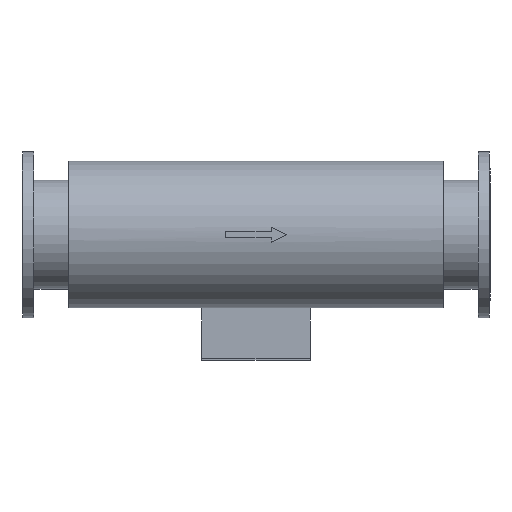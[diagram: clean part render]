
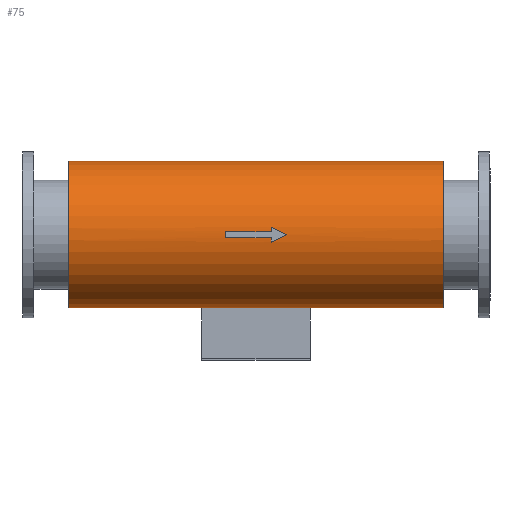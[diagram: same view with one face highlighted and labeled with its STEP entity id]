
A CAD part, front view. The second image highlights one B-rep face of the part: STEP entity #75.
In plain terms, the highlighted cylindrical face has radius 145.8 mm (diameter 291.6 mm), a partial arc.
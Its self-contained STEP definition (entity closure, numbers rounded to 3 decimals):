
#75=ADVANCED_FACE('',(#564,#565,#566),#563,.T.);
#563=CYLINDRICAL_SURFACE('',#1548,145.8);
#564=FACE_OUTER_BOUND('',#1549,.T.);
#565=FACE_BOUND('',#1550,.T.);
#566=FACE_BOUND('',#1551,.T.);
#1545=CARTESIAN_POINT('',(628.,0.,0.));
#1546=DIRECTION('',(1.,0.,0.));
#1547=DIRECTION('',(0.,0.009,1.));
#1548=AXIS2_PLACEMENT_3D('',#1545,#1546,#1547);
#1549=EDGE_LOOP('',(#2182,#2183,#2184,#2185,#2186,#2187));
#1550=EDGE_LOOP('',(#2188,#2189,#2190,#2191));
#1551=EDGE_LOOP('',(#2192,#2193,#2194,#2195,#2196,#2197,#2198));
#2182=ORIENTED_EDGE('',*,*,#2512,.T.);
#2183=ORIENTED_EDGE('',*,*,#2514,.T.);
#2184=ORIENTED_EDGE('',*,*,#2714,.F.);
#2185=ORIENTED_EDGE('',*,*,#2708,.F.);
#2186=ORIENTED_EDGE('',*,*,#2710,.F.);
#2187=ORIENTED_EDGE('',*,*,#2715,.T.);
#2188=ORIENTED_EDGE('',*,*,#2645,.T.);
#2189=ORIENTED_EDGE('',*,*,#2637,.T.);
#2190=ORIENTED_EDGE('',*,*,#2655,.T.);
#2191=ORIENTED_EDGE('',*,*,#2648,.T.);
#2192=ORIENTED_EDGE('',*,*,#2508,.T.);
#2193=ORIENTED_EDGE('',*,*,#2713,.T.);
#2194=ORIENTED_EDGE('',*,*,#2699,.T.);
#2195=ORIENTED_EDGE('',*,*,#2687,.T.);
#2196=ORIENTED_EDGE('',*,*,#2701,.T.);
#2197=ORIENTED_EDGE('',*,*,#2690,.T.);
#2198=ORIENTED_EDGE('',*,*,#2702,.T.);
#2508=EDGE_CURVE('',#2856,#2857,#2858,.T.);
#2512=EDGE_CURVE('',#2884,#2885,#2886,.T.);
#2514=EDGE_CURVE('',#2885,#2892,#2899,.T.);
#2637=EDGE_CURVE('',#3759,#3760,#3761,.T.);
#2645=EDGE_CURVE('',#3815,#3759,#3816,.T.);
#2648=EDGE_CURVE('',#3835,#3815,#3836,.T.);
#2655=EDGE_CURVE('',#3760,#3835,#3883,.T.);
#2687=EDGE_CURVE('',#4099,#4100,#4101,.T.);
#2690=EDGE_CURVE('',#4119,#4120,#4121,.T.);
#2699=EDGE_CURVE('',#4178,#4099,#4179,.T.);
#2701=EDGE_CURVE('',#4100,#4119,#4191,.T.);
#2702=EDGE_CURVE('',#4120,#2856,#4197,.T.);
#2708=EDGE_CURVE('',#4237,#4238,#4239,.T.);
#2710=EDGE_CURVE('',#4245,#4237,#4252,.T.);
#2713=EDGE_CURVE('',#2857,#4178,#4272,.T.);
#2714=EDGE_CURVE('',#4238,#2892,#4278,.T.);
#2715=EDGE_CURVE('',#4245,#2884,#4284,.T.);
#2856=VERTEX_POINT('',#4762);
#2857=VERTEX_POINT('',#4763);
#2858=LINE('',#4764,#4765);
#2884=VERTEX_POINT('',#4778);
#2885=VERTEX_POINT('',#4779);
#2886=CIRCLE('',#4783,145.8);
#2892=VERTEX_POINT('',#4784);
#2899=CIRCLE('',#4792,145.8);
#3759=VERTEX_POINT('',#5403);
#3760=VERTEX_POINT('',#5404);
#3761=CIRCLE('',#5408,145.8);
#3815=VERTEX_POINT('',#5436);
#3816=LINE('',#5437,#5438);
#3835=VERTEX_POINT('',#5447);
#3836=CIRCLE('',#5451,145.8);
#3883=LINE('',#5475,#5476);
#4099=VERTEX_POINT('',#5611);
#4100=VERTEX_POINT('',#5612);
#4101=(BOUNDED_CURVE() B_SPLINE_CURVE(2,(#5613,#5614,#5615),.UNSPECIFIED.,.F.,.F.) B_SPLINE_CURVE_WITH_KNOTS((3,3),(-1.571,-1.468),.UNSPECIFIED.) CURVE() GEOMETRIC_REPRESENTATION_ITEM() RATIONAL_B_SPLINE_CURVE((1.,0.999,1.)) REPRESENTATION_ITEM('') );
#4119=VERTEX_POINT('',#5622);
#4120=VERTEX_POINT('',#5623);
#4121=LINE('',#5624,#5625);
#4178=VERTEX_POINT('',#5655);
#4179=(BOUNDED_CURVE() B_SPLINE_CURVE(2,(#5656,#5657,#5658),.UNSPECIFIED.,.F.,.F.) B_SPLINE_CURVE_WITH_KNOTS((3,3),(-4.815,-4.712),.UNSPECIFIED.) CURVE() GEOMETRIC_REPRESENTATION_ITEM() RATIONAL_B_SPLINE_CURVE((1.,0.999,1.)) REPRESENTATION_ITEM('') );
#4191=CIRCLE('',#5665,145.8);
#4197=CIRCLE('',#5669,145.8);
#4237=VERTEX_POINT('',#5693);
#4238=VERTEX_POINT('',#5694);
#4239=CIRCLE('',#5698,145.8);
#4245=VERTEX_POINT('',#5699);
#4252=CIRCLE('',#5707,145.8);
#4272=CIRCLE('',#5721,145.8);
#4278=(BOUNDED_CURVE() B_SPLINE_CURVE(1,(#5722,#5723),.UNSPECIFIED.,.F.,.F.) B_SPLINE_CURVE_WITH_KNOTS((2,2),(0.013,0.987),.UNSPECIFIED.) CURVE() GEOMETRIC_REPRESENTATION_ITEM() RATIONAL_B_SPLINE_CURVE((1.,1.)) REPRESENTATION_ITEM('') );
#4284=(BOUNDED_CURVE() B_SPLINE_CURVE(1,(#5724,#5725),.UNSPECIFIED.,.F.,.F.) B_SPLINE_CURVE_WITH_KNOTS((2,2),(0.013,0.987),.UNSPECIFIED.) CURVE() GEOMETRIC_REPRESENTATION_ITEM() RATIONAL_B_SPLINE_CURVE((0.887,0.887)) REPRESENTATION_ITEM('') );
#4762=CARTESIAN_POINT('',(-60.,-145.676,6.));
#4763=CARTESIAN_POINT('',(30.,-145.676,6.));
#4764=CARTESIAN_POINT('',(-60.,-145.676,6.));
#4765=VECTOR('',#4766,90.);
#4766=DIRECTION('',(1.,0.,0.));
#4778=CARTESIAN_POINT('',(372.,104.54,-101.632));
#4779=CARTESIAN_POINT('',(372.,0.,-145.8));
#4780=CARTESIAN_POINT('',(372.,0.,0.));
#4781=DIRECTION('',(-1.,0.,0.));
#4782=DIRECTION('',(0.,0.,-1.));
#4783=AXIS2_PLACEMENT_3D('',#4780,#4781,#4782);
#4784=CARTESIAN_POINT('',(372.,1.272,145.794));
#4789=CARTESIAN_POINT('',(372.,0.,0.));
#4790=DIRECTION('',(-1.,0.,0.));
#4791=DIRECTION('',(0.,0.,-1.));
#4792=AXIS2_PLACEMENT_3D('',#4789,#4790,#4791);
#5403=CARTESIAN_POINT('',(-107.5,4.5,-145.731));
#5404=CARTESIAN_POINT('',(-107.5,-4.5,-145.731));
#5405=CARTESIAN_POINT('',(-107.5,0.,0.));
#5406=DIRECTION('',(-1.,0.,0.));
#5407=DIRECTION('',(0.,0.,1.));
#5408=AXIS2_PLACEMENT_3D('',#5405,#5406,#5407);
#5436=CARTESIAN_POINT('',(107.5,4.5,-145.731));
#5437=CARTESIAN_POINT('',(107.5,4.5,-145.731));
#5438=VECTOR('',#5439,215.);
#5439=DIRECTION('',(-1.,0.,0.));
#5447=CARTESIAN_POINT('',(107.5,-4.5,-145.731));
#5448=CARTESIAN_POINT('',(107.5,0.,0.));
#5449=DIRECTION('',(1.,0.,0.));
#5450=DIRECTION('',(0.,0.031,-1.));
#5451=AXIS2_PLACEMENT_3D('',#5448,#5449,#5450);
#5475=CARTESIAN_POINT('',(-107.5,-4.5,-145.731));
#5476=VECTOR('',#5477,215.);
#5477=DIRECTION('',(1.,0.,0.));
#5611=CARTESIAN_POINT('',(60.,-145.8,0.));
#5612=CARTESIAN_POINT('',(30.,-145.026,-15.));
#5613=CARTESIAN_POINT('',(60.,-145.8,0.));
#5614=CARTESIAN_POINT('',(44.96,-145.8,-7.52));
#5615=CARTESIAN_POINT('',(30.,-145.026,-15.));
#5622=CARTESIAN_POINT('',(30.,-145.676,-6.));
#5623=CARTESIAN_POINT('',(-60.,-145.676,-6.));
#5624=CARTESIAN_POINT('',(30.,-145.676,-6.));
#5625=VECTOR('',#5626,90.);
#5626=DIRECTION('',(-1.,0.,0.));
#5655=CARTESIAN_POINT('',(30.,-145.026,15.));
#5656=CARTESIAN_POINT('',(30.,-145.026,15.));
#5657=CARTESIAN_POINT('',(44.96,-145.8,7.52));
#5658=CARTESIAN_POINT('',(60.,-145.8,0.));
#5662=CARTESIAN_POINT('',(30.,0.,0.));
#5663=DIRECTION('',(-1.,0.,0.));
#5664=DIRECTION('',(0.,0.,1.));
#5665=AXIS2_PLACEMENT_3D('',#5662,#5663,#5664);
#5666=CARTESIAN_POINT('',(-60.,0.,0.));
#5667=DIRECTION('',(-1.,0.,0.));
#5668=DIRECTION('',(0.,0.,1.));
#5669=AXIS2_PLACEMENT_3D('',#5666,#5667,#5668);
#5693=CARTESIAN_POINT('',(-372.,0.,-145.8));
#5694=CARTESIAN_POINT('',(-372.,1.272,145.794));
#5695=CARTESIAN_POINT('',(-372.,0.,0.));
#5696=DIRECTION('',(-1.,0.,0.));
#5697=DIRECTION('',(0.,0.,-1.));
#5698=AXIS2_PLACEMENT_3D('',#5695,#5696,#5697);
#5699=CARTESIAN_POINT('',(-372.,104.54,-101.632));
#5704=CARTESIAN_POINT('',(-372.,0.,0.));
#5705=DIRECTION('',(-1.,0.,0.));
#5706=DIRECTION('',(0.,0.,-1.));
#5707=AXIS2_PLACEMENT_3D('',#5704,#5705,#5706);
#5718=CARTESIAN_POINT('',(30.,0.,0.));
#5719=DIRECTION('',(-1.,0.,0.));
#5720=DIRECTION('',(0.,0.,1.));
#5721=AXIS2_PLACEMENT_3D('',#5718,#5719,#5720);
#5722=CARTESIAN_POINT('',(-372.,1.272,145.794));
#5723=CARTESIAN_POINT('',(372.,1.272,145.794));
#5724=CARTESIAN_POINT('',(-372.,104.541,-101.631));
#5725=CARTESIAN_POINT('',(372.,104.541,-101.631));
